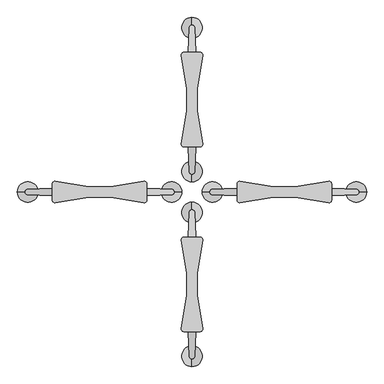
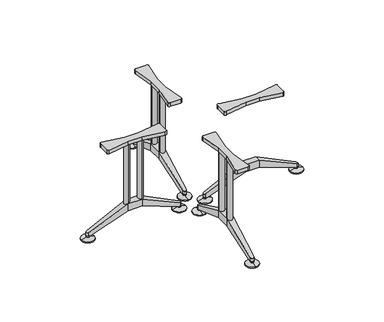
"""IFC4 building model written with IfcOpenShell, lengths in millimetres: furniture geometry, Furniture_Wilkhahn_622-45_Logon Circular Table : Logon 622/45_1800D x 730H."""

from ifc_helpers import new_model, si_unit, point, frame, frame_2d, origin, place, context, project, spatial, polyline, circle_curve, ellipse_curve, trimmed, segment, composite_curve, outline, extrude, source, transform, mapped, element, save
from ifc_brep_helpers import plane_surface, cylinder_surface, revolved_surface, advanced_brep


def furniture_2f5aa179(model_context):
    return source(origin(), model_context, "Body", "SolidModel", [
        advanced_brep(
        [(0.0, 826.4755164, 0.0), (0.0, 876.4755164, 0.0), (0.0, 776.4755164, 0.0), (0.0, 876.4755164, 6.0), (0.0, 776.4755164, 6.0), (0.0, 838.9511544, 17.0), (0.0, 813.9998784, 17.0), (0.0, 838.9511544, 27.0), (0.0, 813.9998784, 27.0), (0.0, 826.4755164, 27.0)],
        [
            (0, 1),
            (1, 2, circle_curve(frame((0.0, 826.4755164, 0.0), z_axis=(0.0, 0.0, -1.0), x_axis=(0.0, 1.0, 0.0)), 50.0)),
            (2, 0),
            (2, 1, circle_curve(frame((0.0, 826.4755164, 0.0), z_axis=(0.0, 0.0, -1.0), x_axis=(0.0, 1.0, 0.0)), 50.0)),
            (1, 3),
            (3, 4, circle_curve(frame((0.0, 826.4755164, 6.0), z_axis=(0.0, 0.0, -1.0), x_axis=(0.0, 1.0, 0.0)), 50.0)),
            (4, 2),
            (4, 3, circle_curve(frame((0.0, 826.4755164, 6.0), z_axis=(0.0, 0.0, -1.0), x_axis=(0.0, 1.0, 0.0)), 50.0)),
            (3, 5),
            (5, 6, circle_curve(frame((0.0, 826.4755164, 17.0), z_axis=(0.0, 0.0, -1.0), x_axis=(0.0, 1.0, 0.0)), 12.475638)),
            (6, 4),
            (6, 5, circle_curve(frame((0.0, 826.4755164, 17.0), z_axis=(0.0, 0.0, -1.0), x_axis=(0.0, 1.0, 0.0)), 12.475638)),
            (5, 7),
            (7, 8, circle_curve(frame((0.0, 826.4755164, 27.0), z_axis=(0.0, 0.0, -1.0), x_axis=(0.0, 1.0, 0.0)), 12.475638)),
            (8, 6),
            (8, 7, circle_curve(frame((0.0, 826.4755164, 27.0), z_axis=(0.0, 0.0, -1.0), x_axis=(0.0, 1.0, 0.0)), 12.475638)),
            (7, 9),
            (9, 8),
        ],
        [
            plane_surface(frame((0.0, 826.4755164, 0.0), z_axis=(0.0, 0.0, -1.0), x_axis=(0.0, 1.0, 0.0))),
            cylinder_surface(frame((0.0, 826.4755164, 27.0), z_axis=(0.0, 0.0, -1.0), x_axis=(0.0, 1.0, 0.0)), 50.0),
            revolved_surface(polyline([(0.0, 838.9511544, 17.0), (0.0, 876.4755164, 6.0)]), (0.0, 826.4755164, 27.0), (0.0, 0.0, -1.0)),
            cylinder_surface(frame((0.0, 826.4755164, 27.0), z_axis=(0.0, 0.0, -1.0), x_axis=(0.0, 1.0, 0.0)), 12.475638),
            plane_surface(frame((0.0, 826.4755164, 27.0), z_axis=(0.0, 0.0, 1.0), x_axis=(0.0, 1.0, 0.0))),
        ],
        [
            (0, [[1, 2, 3]]),
            (0, [[-3, 4, -1]]),
            (1, [[-2, 5, 6, 7]]),
            (1, [[-4, -7, 8, -5]]),
            (2, [[-6, 9, 10, 11]]),
            (2, [[-8, -11, 12, -9]]),
            (3, [[-10, 13, 14, 15]]),
            (3, [[-12, -15, 16, -13]]),
            (4, [[-14, 17, 18]]),
            (4, [[-16, -18, -17]]),
        ],
    ),
        advanced_brep(
        [(0.0, 175.4267924, 0.0), (0.0, 75.4267924, 0.0), (0.0, 125.4267924, 0.0), (0.0, 175.4267924, 6.0), (0.0, 75.4267924, 6.0), (0.0, 137.9024304, 17.0), (0.0, 112.9511544, 17.0), (0.0, 137.9024304, 27.0), (0.0, 112.9511544, 27.0), (0.0, 125.4267924, 27.0)],
        [
            (0, 1, circle_curve(frame((0.0, 125.4267924, 0.0), z_axis=(0.0, 0.0, -1.0), x_axis=(0.0, -1.0, 0.0)), 50.0)),
            (1, 2),
            (2, 0),
            (1, 0, circle_curve(frame((0.0, 125.4267924, 0.0), z_axis=(0.0, 0.0, -1.0), x_axis=(0.0, -1.0, 0.0)), 50.0)),
            (3, 4, circle_curve(frame((0.0, 125.4267924, 6.0), z_axis=(0.0, 0.0, -1.0), x_axis=(0.0, -1.0, 0.0)), 50.0)),
            (4, 1),
            (0, 3),
            (4, 3, circle_curve(frame((0.0, 125.4267924, 6.0), z_axis=(0.0, 0.0, -1.0), x_axis=(0.0, -1.0, 0.0)), 50.0)),
            (5, 6, circle_curve(frame((0.0, 125.4267924, 17.0), z_axis=(0.0, 0.0, -1.0), x_axis=(0.0, -1.0, 0.0)), 12.475638)),
            (6, 4),
            (3, 5),
            (6, 5, circle_curve(frame((0.0, 125.4267924, 17.0), z_axis=(0.0, 0.0, -1.0), x_axis=(0.0, -1.0, 0.0)), 12.475638)),
            (7, 8, circle_curve(frame((0.0, 125.4267924, 27.0), z_axis=(0.0, 0.0, -1.0), x_axis=(0.0, -1.0, 0.0)), 12.475638)),
            (8, 6),
            (5, 7),
            (8, 7, circle_curve(frame((0.0, 125.4267924, 27.0), z_axis=(0.0, 0.0, -1.0), x_axis=(0.0, -1.0, 0.0)), 12.475638)),
            (9, 8),
            (7, 9),
        ],
        [
            plane_surface(frame((0.0, 125.4267924, 0.0), z_axis=(0.0, 0.0, -1.0), x_axis=(0.0, -1.0, 0.0))),
            cylinder_surface(frame((0.0, 125.4267924, 27.0), z_axis=(0.0, 0.0, 1.0), x_axis=(0.0, -1.0, 0.0)), 50.0),
            revolved_surface(polyline([(0.0, 75.4267924, 6.0), (0.0, 112.9511544, 17.0)]), (0.0, 125.4267924, 27.0), (0.0, 0.0, 1.0)),
            cylinder_surface(frame((0.0, 125.4267924, 27.0), z_axis=(0.0, 0.0, 1.0), x_axis=(0.0, -1.0, 0.0)), 12.475638),
            plane_surface(frame((0.0, 125.4267924, 27.0), z_axis=(0.0, 0.0, 1.0), x_axis=(0.0, -1.0, 0.0))),
        ],
        [
            (0, [[1, 2, 3]]),
            (0, [[4, -3, -2]]),
            (1, [[5, 6, -1, 7]]),
            (1, [[8, -7, -4, -6]]),
            (2, [[9, 10, -5, 11]]),
            (2, [[12, -11, -8, -10]]),
            (3, [[13, 14, -9, 15]]),
            (3, [[16, -15, -12, -14]]),
            (4, [[17, -13, 18]]),
            (4, [[-18, -16, -17]]),
        ],
    ),
        extrude(outline(composite_curve([segment(polyline([(-25.0, 528.9511544), (-51.7160071, 692.0109222)]), True, "CONTINUOUS"), segment(trimmed(circle_curve(frame_2d((-39.8739001, 693.9511544)), 12.0), [point((-51.7160071, 692.0109222))], [point((-39.8739001, 705.9511544))], False, "CARTESIAN"), True, "CONTINUOUS"), segment(polyline([(-39.8739001, 705.9511544), (39.8739001, 705.9511544)]), True, "CONTINUOUS"), segment(trimmed(circle_curve(frame_2d((39.8739001, 693.9511544)), 12.0), [point((39.8739001, 705.9511544))], [point((51.7160071, 692.0109222))], False, "CARTESIAN"), True, "CONTINUOUS"), segment(polyline([(51.7160071, 692.0109222), (25.0, 528.9511544), (25.0, 422.9511544), (51.7160071, 259.8913867)]), True, "CONTINUOUS"), segment(trimmed(circle_curve(frame_2d((39.8739001, 257.9511544)), 12.0), [point((51.7160071, 259.8913867))], [point((39.8739001, 245.9511544))], False, "CARTESIAN"), True, "CONTINUOUS"), segment(polyline([(39.8739001, 245.9511544), (-39.8739001, 245.9511544)]), True, "CONTINUOUS"), segment(trimmed(circle_curve(frame_2d((-39.8739001, 257.9511544)), 12.0), [point((-39.8739001, 245.9511544))], [point((-51.7160071, 259.8913867))], False, "CARTESIAN"), True, "CONTINUOUS"), segment(polyline([(-51.7160071, 259.8913867), (-25.0, 422.9511544), (-25.0, 528.9511544)]), True, "CONTINUOUS")], self_intersect=False)), frame((0.0, 0.0, 675.0), z_axis=(0.0, 0.0, 1.0), x_axis=(1.0, 0.0, 0.0)), (0.0, 0.0, 1.0), 29.0),
        advanced_brep(
        [(25.0, 422.9511544, 140.0), (25.0, 528.9511544, 140.0), (25.0, 528.9511544, 195.0), (25.0, 422.9511544, 195.0), (-25.0, 422.9511544, 195.0), (-25.0, 528.9511544, 195.0), (-25.0, 528.9511544, 140.0), (-25.0, 422.9511544, 140.0), (-13.4930419, 137.9024304, 27.0), (13.4930419, 137.9024304, 27.0), (12.9894205, 125.4267924, 27.0), (0.0, 112.9511544, 27.0), (-12.9894205, 125.4267924, 27.0), (-12.9894205, 125.4267924, 56.4159205), (0.0, 112.9511544, 50.6048844), (12.9894205, 125.4267924, 56.4159205), (-12.9894205, 826.4755164, 56.4159205), (-12.9894205, 826.4755164, 27.0), (-13.4930419, 813.9998784, 27.0), (12.9894205, 826.4755164, 27.0), (12.9894205, 826.4755164, 56.4159205), (13.4930419, 813.9998784, 27.0), (0.0, 838.9511544, 27.0), (0.0, 838.9511544, 50.6048844)],
        [
            (0, 1),
            (1, 2),
            (2, 3),
            (3, 0),
            (4, 5),
            (5, 6),
            (6, 7),
            (7, 4),
            (8, 9),
            (9, 10),
            (10, 11, circle_curve(frame((0.0, 125.9511544, 27.0), z_axis=(0.0, 0.0, -1.0), x_axis=(-1.0, 0.0, 0.0)), 13.0)),
            (11, 12, circle_curve(frame((0.0, 125.9511544, 27.0), z_axis=(0.0, 0.0, -1.0), x_axis=(-1.0, 0.0, 0.0)), 13.0)),
            (12, 8),
            (3, 4),
            (4, 13),
            (13, 14, ellipse_curve(frame((0.0, 125.9511544, 56.6601634), z_axis=(0.0, -0.4222333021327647, 0.9064871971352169), x_axis=(0.0, -0.906487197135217, -0.4222333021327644)), 14.341074, 13.0)),
            (14, 15, ellipse_curve(frame((0.0, 125.9511544, 56.6601634), z_axis=(0.0, -0.4222333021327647, 0.9064871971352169), x_axis=(0.0, -0.906487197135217, -0.4222333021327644)), 14.341074, 13.0)),
            (15, 3),
            (7, 0),
            (0, 9),
            (8, 7),
            (16, 17),
            (17, 18),
            (18, 6),
            (5, 16),
            (19, 20),
            (20, 2),
            (1, 21),
            (21, 19),
            (2, 5),
            (6, 1),
            (19, 22, circle_curve(frame((0.0, 825.9511544, 27.0), z_axis=(0.0, 0.0, 1.0), x_axis=(-1.0, 0.0, 0.0)), 13.0)),
            (22, 17, circle_curve(frame((0.0, 825.9511544, 27.0), z_axis=(0.0, 0.0, 1.0), x_axis=(-1.0, 0.0, 0.0)), 13.0)),
            (16, 23, ellipse_curve(frame((0.0, 825.9511544, 56.6601634), z_axis=(0.0, -0.4222333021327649, -0.9064871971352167), x_axis=(0.0, 0.9064871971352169, -0.4222333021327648)), 14.341074, 13.0)),
            (23, 20, ellipse_curve(frame((0.0, 825.9511544, 56.6601634), z_axis=(0.0, -0.4222333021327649, -0.9064871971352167), x_axis=(0.0, 0.9064871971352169, -0.4222333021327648)), 14.341074, 13.0)),
            (15, 10),
            (13, 12),
            (21, 18),
        ],
        [
            plane_surface(frame((25.0, 129.6976943, 27.0), z_axis=(1.0, 0.0, 0.0), x_axis=(0.0, 1.0, 0.0))),
            plane_surface(frame((-25.0, 129.6976943, 27.0), z_axis=(-1.0, 0.0, 0.0), x_axis=(0.0, -1.0, 0.0))),
            plane_surface(frame((-25.0, 137.9024304, 27.0), z_axis=(0.0, 0.0, -1.0), x_axis=(1.0, 0.0, 0.0))),
            plane_surface(frame((-25.0, 112.9511544, 50.6048844), z_axis=(0.0, -0.4222333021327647, 0.9064871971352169), x_axis=(1.0, 0.0, 0.0))),
            plane_surface(frame((-25.0, 422.9511544, 140.0), z_axis=(0.0, 0.3685226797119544, -0.929618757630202), x_axis=(1.0, 0.0, 0.0))),
            plane_surface(frame((-25.0, 528.9511544, 195.0), z_axis=(-0.9991861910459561, 0.04033553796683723, 0.0), x_axis=(0.0, 0.0, -1.0))),
            plane_surface(frame((12.9894205, 826.4755164, 195.0), z_axis=(0.9991861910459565, 0.040335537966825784, 0.0), x_axis=(0.0, 0.0, -1.0))),
            plane_surface(frame((-25.0, 422.9511544, 195.0), z_axis=(0.0, 0.0, 1.0), x_axis=(1.0, 0.0, 0.0))),
            plane_surface(frame((-25.0, 528.9511544, 140.0), z_axis=(0.0, 0.0, -1.0), x_axis=(1.0, 0.0, 0.0))),
            cylinder_surface(frame((0.0, 825.9511544, 0.0), z_axis=(0.0, 0.0, -1.0), x_axis=(-1.0, 0.0, 0.0)), 13.0),
            plane_surface(frame((25.0, 422.9511544, 195.0), z_axis=(0.9991861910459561, -0.04033553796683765, 0.0), x_axis=(0.0, 0.0, -1.0))),
            cylinder_surface(frame((0.0, 125.9511544, -14.190167), z_axis=(0.0, 0.0, -1.0), x_axis=(-1.0, 0.0, 0.0)), 13.0),
            plane_surface(frame((-12.9894205, 125.4267924, 195.0), z_axis=(-0.9991861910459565, -0.04033553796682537, 0.0), x_axis=(0.0, 0.0, -1.0))),
            plane_surface(frame((-25.0, 528.9511544, 195.0), z_axis=(0.0, 0.4222333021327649, 0.9064871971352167), x_axis=(1.0, 0.0, 0.0))),
            plane_surface(frame((-25.0, 838.9511544, 27.0), z_axis=(0.0, 0.0, -1.0), x_axis=(1.0, 0.0, 0.0))),
            plane_surface(frame((-25.0, 813.9998784, 27.0), z_axis=(0.0, -0.3685226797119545, -0.929618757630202), x_axis=(1.0, 0.0, 0.0))),
        ],
        [
            (0, [[1, 2, 3, 4]]),
            (1, [[5, 6, 7, 8]]),
            (2, [[9, 10, 11, 12, 13]]),
            (3, [[14, 15, 16, 17, 18]]),
            (4, [[19, 20, -9, 21]]),
            (5, [[22, 23, 24, -6, 25]]),
            (6, [[26, 27, -2, 28, 29]]),
            (7, [[-3, 30, -5, -14]]),
            (8, [[-1, -19, -7, 31]]),
            (9, [[-26, 32, 33, -22, 34, 35]]),
            (10, [[36, -10, -20, -4, -18]]),
            (11, [[-36, -17, -16, 37, -12, -11]]),
            (12, [[-37, -15, -8, -21, -13]]),
            (13, [[-30, -27, -35, -34, -25]]),
            (14, [[38, -23, -33, -32, -29]]),
            (15, [[-31, -24, -38, -28]]),
        ],
    ),
        extrude(outline(composite_curve([segment(trimmed(circle_curve(frame_2d((0.0, 528.9511544)), 20.0), [point((20.0, 528.9511544))], [point((-20.0, 528.9511544))], False, "CARTESIAN"), True, "CONTINUOUS"), segment(trimmed(circle_curve(frame_2d((0.0, 528.9511544)), 20.0), [point((-20.0, 528.9511544))], [point((20.0, 528.9511544))], False, "CARTESIAN"), True, "CONTINUOUS")], self_intersect=False)), frame((0.0, 0.0, 140.0), z_axis=(0.0, 0.0, 1.0), x_axis=(1.0, 0.0, 0.0)), (0.0, 0.0, 1.0), 535.0),
        extrude(outline(composite_curve([segment(trimmed(circle_curve(frame_2d((0.0, 422.9511544)), 20.0), [point((20.0, 422.9511544))], [point((-20.0, 422.9511544))], False, "CARTESIAN"), True, "CONTINUOUS"), segment(trimmed(circle_curve(frame_2d((0.0, 422.9511544)), 20.0), [point((-20.0, 422.9511544))], [point((20.0, 422.9511544))], False, "CARTESIAN"), True, "CONTINUOUS")], self_intersect=False)), frame((0.0, 0.0, 140.0), z_axis=(0.0, 0.0, 1.0), x_axis=(1.0, 0.0, 0.0)), (0.0, 0.0, 1.0), 535.0),
        advanced_brep(
        [(0.0, -774.5732076, 0.0), (0.0, -724.5732076, 0.0), (0.0, -824.5732076, 0.0), (0.0, -724.5732076, 6.0), (0.0, -824.5732076, 6.0), (0.0, -762.0975696, 17.0), (0.0, -787.0488456, 17.0), (0.0, -762.0975696, 27.0), (0.0, -787.0488456, 27.0), (0.0, -774.5732076, 27.0)],
        [
            (0, 1),
            (1, 2, circle_curve(frame((0.0, -774.5732076, 0.0), z_axis=(0.0, 0.0, -1.0), x_axis=(0.0, -1.0, 0.0)), 50.0)),
            (2, 0),
            (2, 1, circle_curve(frame((0.0, -774.5732076, 0.0), z_axis=(0.0, 0.0, -1.0), x_axis=(0.0, -1.0, 0.0)), 50.0)),
            (1, 3),
            (3, 4, circle_curve(frame((0.0, -774.5732076, 6.0), z_axis=(0.0, 0.0, -1.0), x_axis=(0.0, -1.0, 0.0)), 50.0)),
            (4, 2),
            (4, 3, circle_curve(frame((0.0, -774.5732076, 6.0), z_axis=(0.0, 0.0, -1.0), x_axis=(0.0, -1.0, 0.0)), 50.0)),
            (3, 5),
            (5, 6, circle_curve(frame((0.0, -774.5732076, 17.0), z_axis=(0.0, 0.0, -1.0), x_axis=(0.0, -1.0, 0.0)), 12.475638)),
            (6, 4),
            (6, 5, circle_curve(frame((0.0, -774.5732076, 17.0), z_axis=(0.0, 0.0, -1.0), x_axis=(0.0, -1.0, 0.0)), 12.475638)),
            (5, 7),
            (7, 8, circle_curve(frame((0.0, -774.5732076, 27.0), z_axis=(0.0, 0.0, -1.0), x_axis=(0.0, -1.0, 0.0)), 12.475638)),
            (8, 6),
            (8, 7, circle_curve(frame((0.0, -774.5732076, 27.0), z_axis=(0.0, 0.0, -1.0), x_axis=(0.0, -1.0, 0.0)), 12.475638)),
            (7, 9),
            (9, 8),
        ],
        [
            plane_surface(frame((0.0, -774.5732076, 0.0), z_axis=(0.0, 0.0, -1.0), x_axis=(0.0, -1.0, 0.0))),
            cylinder_surface(frame((0.0, -774.5732076, 27.0), z_axis=(0.0, 0.0, -1.0), x_axis=(0.0, -1.0, 0.0)), 50.0),
            revolved_surface(polyline([(0.0, -787.0488456, 17.0), (0.0, -824.5732076, 6.0)]), (0.0, -774.5732076, 27.0), (0.0, 0.0, -1.0)),
            cylinder_surface(frame((0.0, -774.5732076, 27.0), z_axis=(0.0, 0.0, -1.0), x_axis=(0.0, -1.0, 0.0)), 12.475638),
            plane_surface(frame((0.0, -774.5732076, 27.0), z_axis=(0.0, 0.0, 1.0), x_axis=(0.0, -1.0, 0.0))),
        ],
        [
            (0, [[1, 2, 3]]),
            (0, [[-3, 4, -1]]),
            (1, [[5, 6, 7, -2]]),
            (1, [[-7, 8, -5, -4]]),
            (2, [[9, 10, 11, -6]]),
            (2, [[-11, 12, -9, -8]]),
            (3, [[13, 14, 15, -10]]),
            (3, [[-15, 16, -13, -12]]),
            (4, [[17, 18, -14]]),
            (4, [[-18, -17, -16]]),
        ],
    ),
        advanced_brep(
        [(0.0, -123.5244836, 0.0), (0.0, -73.5244836, 0.0), (0.0, -23.5244836, 0.0), (0.0, -123.5244836, 6.0), (0.0, -23.5244836, 6.0), (0.0, -86.0001216, 17.0), (0.0, -61.0488456, 17.0), (0.0, -86.0001216, 27.0), (0.0, -61.0488456, 27.0), (0.0, -73.5244836, 27.0)],
        [
            (0, 1),
            (1, 2),
            (2, 0, circle_curve(frame((0.0, -73.5244836, 0.0), z_axis=(0.0, 0.0, -1.0), x_axis=(0.0, 1.0, 0.0)), 50.0)),
            (0, 2, circle_curve(frame((0.0, -73.5244836, 0.0), z_axis=(0.0, 0.0, -1.0), x_axis=(0.0, 1.0, 0.0)), 50.0)),
            (3, 0),
            (2, 4),
            (4, 3, circle_curve(frame((0.0, -73.5244836, 6.0), z_axis=(0.0, 0.0, -1.0), x_axis=(0.0, 1.0, 0.0)), 50.0)),
            (3, 4, circle_curve(frame((0.0, -73.5244836, 6.0), z_axis=(0.0, 0.0, -1.0), x_axis=(0.0, 1.0, 0.0)), 50.0)),
            (5, 3),
            (4, 6),
            (6, 5, circle_curve(frame((0.0, -73.5244836, 17.0), z_axis=(0.0, 0.0, -1.0), x_axis=(0.0, 1.0, 0.0)), 12.475638)),
            (5, 6, circle_curve(frame((0.0, -73.5244836, 17.0), z_axis=(0.0, 0.0, -1.0), x_axis=(0.0, 1.0, 0.0)), 12.475638)),
            (7, 5),
            (6, 8),
            (8, 7, circle_curve(frame((0.0, -73.5244836, 27.0), z_axis=(0.0, 0.0, -1.0), x_axis=(0.0, 1.0, 0.0)), 12.475638)),
            (7, 8, circle_curve(frame((0.0, -73.5244836, 27.0), z_axis=(0.0, 0.0, -1.0), x_axis=(0.0, 1.0, 0.0)), 12.475638)),
            (9, 7),
            (8, 9),
        ],
        [
            plane_surface(frame((0.0, -73.5244836, 0.0), z_axis=(0.0, 0.0, -1.0), x_axis=(0.0, 1.0, 0.0))),
            cylinder_surface(frame((0.0, -73.5244836, 27.0), z_axis=(0.0, 0.0, 1.0), x_axis=(0.0, 1.0, 0.0)), 50.0),
            revolved_surface(polyline([(0.0, -23.5244836, 6.0), (0.0, -61.0488456, 17.0)]), (0.0, -73.5244836, 27.0), (0.0, 0.0, 1.0)),
            cylinder_surface(frame((0.0, -73.5244836, 27.0), z_axis=(0.0, 0.0, 1.0), x_axis=(0.0, 1.0, 0.0)), 12.475638),
            plane_surface(frame((0.0, -73.5244836, 27.0), z_axis=(0.0, 0.0, 1.0), x_axis=(0.0, 1.0, 0.0))),
        ],
        [
            (0, [[1, 2, 3]]),
            (0, [[-2, -1, 4]]),
            (1, [[5, -3, 6, 7]]),
            (1, [[-6, -4, -5, 8]]),
            (2, [[9, -7, 10, 11]]),
            (2, [[-10, -8, -9, 12]]),
            (3, [[13, -11, 14, 15]]),
            (3, [[-14, -12, -13, 16]]),
            (4, [[17, -15, 18]]),
            (4, [[-18, -16, -17]]),
        ],
    ),
        extrude(outline(composite_curve([segment(polyline([(-25.0, -477.0488456), (-25.0, -371.0488456), (-51.7160071, -207.9890778)]), True, "CONTINUOUS"), segment(trimmed(circle_curve(frame_2d((-39.8739001, -206.0488456)), 12.0), [point((-51.7160071, -207.9890778))], [point((-39.8739001, -194.0488456))], False, "CARTESIAN"), True, "CONTINUOUS"), segment(polyline([(-39.8739001, -194.0488456), (39.8739001, -194.0488456)]), True, "CONTINUOUS"), segment(trimmed(circle_curve(frame_2d((39.8739001, -206.0488456)), 12.0), [point((39.8739001, -194.0488456))], [point((51.7160071, -207.9890778))], False, "CARTESIAN"), True, "CONTINUOUS"), segment(polyline([(51.7160071, -207.9890778), (25.0, -371.0488456), (25.0, -477.0488456), (51.7160071, -640.1086133)]), True, "CONTINUOUS"), segment(trimmed(circle_curve(frame_2d((39.8739001, -642.0488456)), 12.0), [point((51.7160071, -640.1086133))], [point((39.8739001, -654.0488456))], False, "CARTESIAN"), True, "CONTINUOUS"), segment(polyline([(39.8739001, -654.0488456), (-39.8739001, -654.0488456)]), True, "CONTINUOUS"), segment(trimmed(circle_curve(frame_2d((-39.8739001, -642.0488456)), 12.0), [point((-39.8739001, -654.0488456))], [point((-51.7160071, -640.1086133))], False, "CARTESIAN"), True, "CONTINUOUS"), segment(polyline([(-51.7160071, -640.1086133), (-25.0, -477.0488456)]), True, "CONTINUOUS")], self_intersect=False)), frame((0.0, 0.0, 675.0), z_axis=(0.0, 0.0, 1.0), x_axis=(1.0, 0.0, 0.0)), (0.0, 0.0, 1.0), 29.0),
        advanced_brep(
        [(25.0, -371.0488456, 140.0), (25.0, -371.0488456, 195.0), (25.0, -477.0488456, 195.0), (25.0, -477.0488456, 140.0), (-25.0, -371.0488456, 195.0), (-25.0, -371.0488456, 140.0), (-25.0, -477.0488456, 140.0), (-25.0, -477.0488456, 195.0), (-13.4930419, -86.0001216, 27.0), (-12.9894205, -73.5244836, 27.0), (0.0, -61.0488456, 27.0), (12.9894205, -73.5244836, 27.0), (13.4930419, -86.0001216, 27.0), (12.9894205, -73.5244836, 56.4159205), (0.0, -61.0488456, 50.6048844), (-12.9894205, -73.5244836, 56.4159205), (-12.9894205, -774.5732076, 56.4159205), (-13.4930419, -762.0975696, 27.0), (-12.9894205, -774.5732076, 27.0), (12.9894205, -774.5732076, 27.0), (13.4930419, -762.0975696, 27.0), (12.9894205, -774.5732076, 56.4159205), (0.0, -787.0488456, 50.6048844), (0.0, -787.0488456, 27.0)],
        [
            (0, 1),
            (1, 2),
            (2, 3),
            (3, 0),
            (4, 5),
            (5, 6),
            (6, 7),
            (7, 4),
            (8, 9),
            (9, 10, circle_curve(frame((0.0, -74.0488456, 27.0), z_axis=(0.0, 0.0, -1.0), x_axis=(-1.0, 0.0, 0.0)), 13.0)),
            (10, 11, circle_curve(frame((0.0, -74.0488456, 27.0), z_axis=(0.0, 0.0, -1.0), x_axis=(-1.0, 0.0, 0.0)), 13.0)),
            (11, 12),
            (12, 8),
            (1, 13),
            (13, 14, ellipse_curve(frame((0.0, -74.0488456, 56.6601634), z_axis=(0.0, 0.4222333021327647, 0.9064871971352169), x_axis=(0.0, 0.906487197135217, -0.4222333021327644)), 14.341074, 13.0)),
            (14, 15, ellipse_curve(frame((0.0, -74.0488456, 56.6601634), z_axis=(0.0, 0.4222333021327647, 0.9064871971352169), x_axis=(0.0, 0.906487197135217, -0.4222333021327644)), 14.341074, 13.0)),
            (15, 4),
            (4, 1),
            (5, 8),
            (12, 0),
            (0, 5),
            (16, 7),
            (6, 17),
            (17, 18),
            (18, 16),
            (19, 20),
            (20, 3),
            (2, 21),
            (21, 19),
            (7, 2),
            (3, 6),
            (21, 22, ellipse_curve(frame((0.0, -774.0488456, 56.6601634), z_axis=(0.0, 0.4222333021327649, -0.9064871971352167), x_axis=(0.0, -0.9064871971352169, -0.4222333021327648)), 14.341074, 13.0)),
            (22, 16, ellipse_curve(frame((0.0, -774.0488456, 56.6601634), z_axis=(0.0, 0.4222333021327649, -0.9064871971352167), x_axis=(0.0, -0.9064871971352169, -0.4222333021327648)), 14.341074, 13.0)),
            (18, 23, circle_curve(frame((0.0, -774.0488456, 27.0), z_axis=(0.0, 0.0, 1.0), x_axis=(-1.0, 0.0, 0.0)), 13.0)),
            (23, 19, circle_curve(frame((0.0, -774.0488456, 27.0), z_axis=(0.0, 0.0, 1.0), x_axis=(-1.0, 0.0, 0.0)), 13.0)),
            (11, 13),
            (9, 15),
            (17, 20),
        ],
        [
            plane_surface(frame((25.0, -77.7953854, 27.0), z_axis=(1.0, 0.0, 0.0), x_axis=(0.0, -1.0, 0.0))),
            plane_surface(frame((-25.0, -77.7953854, 27.0), z_axis=(-1.0, 0.0, 0.0), x_axis=(0.0, 1.0, 0.0))),
            plane_surface(frame((-25.0, -86.0001216, 27.0), z_axis=(0.0, 0.0, -1.0), x_axis=(1.0, 0.0, 0.0))),
            plane_surface(frame((-25.0, -61.0488456, 50.6048844), z_axis=(0.0, 0.4222333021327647, 0.9064871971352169), x_axis=(1.0, 0.0, 0.0))),
            plane_surface(frame((-25.0, -371.0488456, 140.0), z_axis=(0.0, -0.3685226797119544, -0.929618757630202), x_axis=(1.0, 0.0, 0.0))),
            plane_surface(frame((-25.0, -477.0488456, 195.0), z_axis=(-0.9991861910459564, -0.040335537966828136, 0.0), x_axis=(0.0, 0.0, -1.0))),
            plane_surface(frame((12.9894205, -774.5732076, 195.0), z_axis=(0.9991861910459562, -0.04033553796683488, 0.0), x_axis=(0.0, 0.0, -1.0))),
            plane_surface(frame((-25.0, -371.0488456, 195.0), z_axis=(0.0, 0.0, 1.0), x_axis=(1.0, 0.0, 0.0))),
            plane_surface(frame((-25.0, -477.0488456, 140.0), z_axis=(0.0, 0.0, -1.0), x_axis=(1.0, 0.0, 0.0))),
            cylinder_surface(frame((0.0, -774.0488456, 0.0), z_axis=(0.0, 0.0, -1.0), x_axis=(-1.0, 0.0, 0.0)), 13.0),
            plane_surface(frame((25.0, -371.0488456, 195.0), z_axis=(0.9991861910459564, 0.04033553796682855, 0.0), x_axis=(0.0, 0.0, -1.0))),
            cylinder_surface(frame((0.0, -74.0488456, -14.190167), z_axis=(0.0, 0.0, -1.0), x_axis=(-1.0, 0.0, 0.0)), 13.0),
            plane_surface(frame((-12.9894205, -73.5244836, 195.0), z_axis=(-0.9991861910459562, 0.040335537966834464, 0.0), x_axis=(0.0, 0.0, -1.0))),
            plane_surface(frame((-25.0, -477.0488456, 195.0), z_axis=(0.0, -0.4222333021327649, 0.9064871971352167), x_axis=(1.0, 0.0, 0.0))),
            plane_surface(frame((-25.0, -787.0488456, 27.0), z_axis=(0.0, 0.0, -1.0), x_axis=(1.0, 0.0, 0.0))),
            plane_surface(frame((-25.0, -762.0975696, 27.0), z_axis=(0.0, 0.3685226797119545, -0.929618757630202), x_axis=(1.0, 0.0, 0.0))),
        ],
        [
            (0, [[1, 2, 3, 4]]),
            (1, [[5, 6, 7, 8]]),
            (2, [[9, 10, 11, 12, 13]]),
            (3, [[14, 15, 16, 17, 18]]),
            (4, [[19, -13, 20, 21]]),
            (5, [[22, -7, 23, 24, 25]]),
            (6, [[26, 27, -3, 28, 29]]),
            (7, [[-18, -8, 30, -2]]),
            (8, [[31, -6, -21, -4]]),
            (9, [[32, 33, -25, 34, 35, -29]]),
            (10, [[-14, -1, -20, -12, 36]]),
            (11, [[-11, -10, 37, -16, -15, -36]]),
            (12, [[-9, -19, -5, -17, -37]]),
            (13, [[-22, -33, -32, -28, -30]]),
            (14, [[-26, -35, -34, -24, 38]]),
            (15, [[-27, -38, -23, -31]]),
        ],
    ),
        extrude(outline(composite_curve([segment(trimmed(circle_curve(frame_2d((0.0, -477.0488456)), 20.0), [point((20.0, -477.0488456))], [point((-20.0, -477.0488456))], False, "CARTESIAN"), True, "CONTINUOUS"), segment(trimmed(circle_curve(frame_2d((0.0, -477.0488456)), 20.0), [point((-20.0, -477.0488456))], [point((20.0, -477.0488456))], False, "CARTESIAN"), True, "CONTINUOUS")], self_intersect=False)), frame((0.0, 0.0, 140.0), z_axis=(0.0, 0.0, 1.0), x_axis=(1.0, 0.0, 0.0)), (0.0, 0.0, 1.0), 535.0),
        extrude(outline(composite_curve([segment(trimmed(circle_curve(frame_2d((0.0, -371.0488456)), 20.0), [point((20.0, -371.0488456))], [point((-20.0, -371.0488456))], False, "CARTESIAN"), True, "CONTINUOUS"), segment(trimmed(circle_curve(frame_2d((0.0, -371.0488456)), 20.0), [point((-20.0, -371.0488456))], [point((20.0, -371.0488456))], False, "CARTESIAN"), True, "CONTINUOUS")], self_intersect=False)), frame((0.0, 0.0, 140.0), z_axis=(0.0, 0.0, 1.0), x_axis=(1.0, 0.0, 0.0)), (0.0, 0.0, 1.0), 535.0),
        advanced_brep(
        [(-800.524362, 25.9511544, 0.0), (-750.524362, 25.9511544, 0.0), (-850.524362, 25.9511544, 0.0), (-750.524362, 25.9511544, 6.0), (-850.524362, 25.9511544, 6.0), (-788.048724, 25.9511544, 17.0), (-813.0, 25.9511544, 17.0), (-788.048724, 25.9511544, 27.0), (-813.0, 25.9511544, 27.0), (-800.524362, 25.9511544, 27.0)],
        [
            (0, 1),
            (1, 2, circle_curve(frame((-800.524362, 25.9511544, 0.0), z_axis=(0.0, 0.0, -1.0), x_axis=(-1.0, 0.0, 0.0)), 50.0)),
            (2, 0),
            (2, 1, circle_curve(frame((-800.524362, 25.9511544, 0.0), z_axis=(0.0, 0.0, -1.0), x_axis=(-1.0, 0.0, 0.0)), 50.0)),
            (1, 3),
            (3, 4, circle_curve(frame((-800.524362, 25.9511544, 6.0), z_axis=(0.0, 0.0, -1.0), x_axis=(-1.0, 0.0, 0.0)), 50.0)),
            (4, 2),
            (4, 3, circle_curve(frame((-800.524362, 25.9511544, 6.0), z_axis=(0.0, 0.0, -1.0), x_axis=(-1.0, 0.0, 0.0)), 50.0)),
            (3, 5),
            (5, 6, circle_curve(frame((-800.524362, 25.9511544, 17.0), z_axis=(0.0, 0.0, -1.0), x_axis=(-1.0, 0.0, 0.0)), 12.475638)),
            (6, 4),
            (6, 5, circle_curve(frame((-800.524362, 25.9511544, 17.0), z_axis=(0.0, 0.0, -1.0), x_axis=(-1.0, 0.0, 0.0)), 12.475638)),
            (5, 7),
            (7, 8, circle_curve(frame((-800.524362, 25.9511544, 27.0), z_axis=(0.0, 0.0, -1.0), x_axis=(-1.0, 0.0, 0.0)), 12.475638)),
            (8, 6),
            (8, 7, circle_curve(frame((-800.524362, 25.9511544, 27.0), z_axis=(0.0, 0.0, -1.0), x_axis=(-1.0, 0.0, 0.0)), 12.475638)),
            (7, 9),
            (9, 8),
        ],
        [
            plane_surface(frame((-800.524362, 25.9511544, 0.0), z_axis=(0.0, 0.0, -1.0), x_axis=(-1.0, 0.0, 0.0))),
            cylinder_surface(frame((-800.524362, 25.9511544, 27.0), z_axis=(0.0, 0.0, -1.0), x_axis=(-1.0, 0.0, 0.0)), 50.0),
            revolved_surface(polyline([(-813.0, 25.9511544, 17.0), (-850.524362, 25.9511544, 6.0)]), (-800.524362, 25.9511544, 27.0), (0.0, 0.0, -1.0)),
            cylinder_surface(frame((-800.524362, 25.9511544, 27.0), z_axis=(0.0, 0.0, -1.0), x_axis=(-1.0, 0.0, 0.0)), 12.475638),
            plane_surface(frame((-800.524362, 25.9511544, 27.0), z_axis=(0.0, 0.0, 1.0), x_axis=(-1.0, 0.0, 0.0))),
        ],
        [
            (0, [[1, 2, 3]]),
            (0, [[-3, 4, -1]]),
            (1, [[5, 6, 7, -2]]),
            (1, [[-7, 8, -5, -4]]),
            (2, [[9, 10, 11, -6]]),
            (2, [[-11, 12, -9, -8]]),
            (3, [[13, 14, 15, -10]]),
            (3, [[-15, 16, -13, -12]]),
            (4, [[17, 18, -14]]),
            (4, [[-18, -17, -16]]),
        ],
    ),
        advanced_brep(
        [(-149.475638, 25.9511544, 0.0), (-99.475638, 25.9511544, 0.0), (-49.475638, 25.9511544, 0.0), (-149.475638, 25.9511544, 6.0), (-49.475638, 25.9511544, 6.0), (-111.951276, 25.9511544, 17.0), (-87.0, 25.9511544, 17.0), (-111.951276, 25.9511544, 27.0), (-87.0, 25.9511544, 27.0), (-99.475638, 25.9511544, 27.0)],
        [
            (0, 1),
            (1, 2),
            (2, 0, circle_curve(frame((-99.475638, 25.9511544, 0.0), z_axis=(0.0, 0.0, -1.0), x_axis=(1.0, 0.0, 0.0)), 50.0)),
            (0, 2, circle_curve(frame((-99.475638, 25.9511544, 0.0), z_axis=(0.0, 0.0, -1.0), x_axis=(1.0, 0.0, 0.0)), 50.0)),
            (3, 0),
            (2, 4),
            (4, 3, circle_curve(frame((-99.475638, 25.9511544, 6.0), z_axis=(0.0, 0.0, -1.0), x_axis=(1.0, 0.0, 0.0)), 50.0)),
            (3, 4, circle_curve(frame((-99.475638, 25.9511544, 6.0), z_axis=(0.0, 0.0, -1.0), x_axis=(1.0, 0.0, 0.0)), 50.0)),
            (5, 3),
            (4, 6),
            (6, 5, circle_curve(frame((-99.475638, 25.9511544, 17.0), z_axis=(0.0, 0.0, -1.0), x_axis=(1.0, 0.0, 0.0)), 12.475638)),
            (5, 6, circle_curve(frame((-99.475638, 25.9511544, 17.0), z_axis=(0.0, 0.0, -1.0), x_axis=(1.0, 0.0, 0.0)), 12.475638)),
            (7, 5),
            (6, 8),
            (8, 7, circle_curve(frame((-99.475638, 25.9511544, 27.0), z_axis=(0.0, 0.0, -1.0), x_axis=(1.0, 0.0, 0.0)), 12.475638)),
            (7, 8, circle_curve(frame((-99.475638, 25.9511544, 27.0), z_axis=(0.0, 0.0, -1.0), x_axis=(1.0, 0.0, 0.0)), 12.475638)),
            (9, 7),
            (8, 9),
        ],
        [
            plane_surface(frame((-99.475638, 25.9511544, 0.0), z_axis=(0.0, 0.0, -1.0), x_axis=(1.0, 0.0, 0.0))),
            cylinder_surface(frame((-99.475638, 25.9511544, 27.0), z_axis=(0.0, 0.0, 1.0), x_axis=(1.0, 0.0, 0.0)), 50.0),
            revolved_surface(polyline([(-49.475638, 25.9511544, 6.0), (-87.0, 25.9511544, 17.0)]), (-99.475638, 25.9511544, 27.0), (0.0, 0.0, 1.0)),
            cylinder_surface(frame((-99.475638, 25.9511544, 27.0), z_axis=(0.0, 0.0, 1.0), x_axis=(1.0, 0.0, 0.0)), 12.475638),
            plane_surface(frame((-99.475638, 25.9511544, 27.0), z_axis=(0.0, 0.0, 1.0), x_axis=(1.0, 0.0, 0.0))),
        ],
        [
            (0, [[1, 2, 3]]),
            (0, [[-2, -1, 4]]),
            (1, [[5, -3, 6, 7]]),
            (1, [[-6, -4, -5, 8]]),
            (2, [[9, -7, 10, 11]]),
            (2, [[-10, -8, -9, 12]]),
            (3, [[13, -11, 14, 15]]),
            (3, [[-14, -12, -13, 16]]),
            (4, [[17, -15, 18]]),
            (4, [[-18, -16, -17]]),
        ],
    ),
        extrude(outline(composite_curve([segment(polyline([(-503.0, 50.9511544), (-397.0, 50.9511544), (-233.9402322, 77.6671616)]), True, "CONTINUOUS"), segment(trimmed(circle_curve(frame_2d((-232.0, 65.8250546)), 12.0), [point((-233.9402322, 77.6671616))], [point((-220.0, 65.8250546))], False, "CARTESIAN"), True, "CONTINUOUS"), segment(polyline([(-220.0, 65.8250546), (-220.0, -13.9227457)]), True, "CONTINUOUS"), segment(trimmed(circle_curve(frame_2d((-232.0, -13.9227457)), 12.0), [point((-220.0, -13.9227457))], [point((-233.9402322, -25.7648527))], False, "CARTESIAN"), True, "CONTINUOUS"), segment(polyline([(-233.9402322, -25.7648527), (-397.0, 0.9511544), (-503.0, 0.9511544), (-666.0597678, -25.7648527)]), True, "CONTINUOUS"), segment(trimmed(circle_curve(frame_2d((-668.0, -13.9227457)), 12.0), [point((-666.0597678, -25.7648527))], [point((-680.0, -13.9227457))], False, "CARTESIAN"), True, "CONTINUOUS"), segment(polyline([(-680.0, -13.9227457), (-680.0, 65.8250546)]), True, "CONTINUOUS"), segment(trimmed(circle_curve(frame_2d((-668.0, 65.8250546)), 12.0), [point((-680.0, 65.8250546))], [point((-666.0597678, 77.6671616))], False, "CARTESIAN"), True, "CONTINUOUS"), segment(polyline([(-666.0597678, 77.6671616), (-503.0, 50.9511544)]), True, "CONTINUOUS")], self_intersect=False)), frame((0.0, 0.0, 675.0), z_axis=(0.0, 0.0, 1.0), x_axis=(1.0, 0.0, 0.0)), (0.0, 0.0, 1.0), 29.0),
        advanced_brep(
        [(-397.0, 0.9511544, 140.0), (-397.0, 0.9511544, 195.0), (-503.0, 0.9511544, 195.0), (-503.0, 0.9511544, 140.0), (-397.0, 50.9511544, 195.0), (-397.0, 50.9511544, 140.0), (-503.0, 50.9511544, 140.0), (-503.0, 50.9511544, 195.0), (-111.951276, 39.4441963, 27.0), (-99.475638, 38.9405749, 27.0), (-87.0, 25.9511544, 27.0), (-99.475638, 12.9617339, 27.0), (-111.951276, 12.4581125, 27.0), (-99.475638, 12.9617339, 56.4159205), (-87.0, 25.9511544, 50.6048844), (-99.475638, 38.9405749, 56.4159205), (-800.524362, 38.9405749, 56.4159205), (-788.048724, 39.4441963, 27.0), (-800.524362, 38.9405749, 27.0), (-800.524362, 12.9617339, 27.0), (-788.048724, 12.4581125, 27.0), (-800.524362, 12.9617339, 56.4159205), (-813.0, 25.9511544, 50.6048844), (-813.0, 25.9511544, 27.0)],
        [
            (0, 1),
            (1, 2),
            (2, 3),
            (3, 0),
            (4, 5),
            (5, 6),
            (6, 7),
            (7, 4),
            (8, 9),
            (9, 10, circle_curve(frame((-100.0, 25.9511544, 27.0), z_axis=(0.0, 0.0, -1.0), x_axis=(0.0, 1.0, 0.0)), 13.0)),
            (10, 11, circle_curve(frame((-100.0, 25.9511544, 27.0), z_axis=(0.0, 0.0, -1.0), x_axis=(0.0, 1.0, 0.0)), 13.0)),
            (11, 12),
            (12, 8),
            (1, 13),
            (13, 14, ellipse_curve(frame((-100.0, 25.9511544, 56.6601634), z_axis=(0.4222333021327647, 0.0, 0.9064871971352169), x_axis=(0.906487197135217, 0.0, -0.4222333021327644)), 14.341074, 13.0)),
            (14, 15, ellipse_curve(frame((-100.0, 25.9511544, 56.6601634), z_axis=(0.4222333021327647, 0.0, 0.9064871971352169), x_axis=(0.906487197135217, 0.0, -0.4222333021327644)), 14.341074, 13.0)),
            (15, 4),
            (4, 1),
            (5, 8),
            (12, 0),
            (0, 5),
            (16, 7),
            (6, 17),
            (17, 18),
            (18, 16),
            (19, 20),
            (20, 3),
            (2, 21),
            (21, 19),
            (7, 2),
            (3, 6),
            (21, 22, ellipse_curve(frame((-800.0, 25.9511544, 56.6601634), z_axis=(0.4222333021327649, 0.0, -0.9064871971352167), x_axis=(-0.9064871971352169, 0.0, -0.4222333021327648)), 14.341074, 13.0)),
            (22, 16, ellipse_curve(frame((-800.0, 25.9511544, 56.6601634), z_axis=(0.4222333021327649, 0.0, -0.9064871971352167), x_axis=(-0.9064871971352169, 0.0, -0.4222333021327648)), 14.341074, 13.0)),
            (18, 23, circle_curve(frame((-800.0, 25.9511544, 27.0), z_axis=(0.0, 0.0, 1.0), x_axis=(0.0, 1.0, 0.0)), 13.0)),
            (23, 19, circle_curve(frame((-800.0, 25.9511544, 27.0), z_axis=(0.0, 0.0, 1.0), x_axis=(0.0, 1.0, 0.0)), 13.0)),
            (11, 13),
            (9, 15),
            (17, 20),
        ],
        [
            plane_surface(frame((-103.7465398, 0.9511544, 27.0), z_axis=(0.0, -1.0, 0.0), x_axis=(-1.0, 0.0, 0.0))),
            plane_surface(frame((-103.7465398, 50.9511544, 27.0), z_axis=(0.0, 1.0, 0.0), x_axis=(1.0, 0.0, 0.0))),
            plane_surface(frame((-111.951276, 50.9511544, 27.0), z_axis=(0.0, 0.0, -1.0), x_axis=(0.0, -1.0, 0.0))),
            plane_surface(frame((-87.0, 50.9511544, 50.6048844), z_axis=(0.4222333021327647, 0.0, 0.9064871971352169), x_axis=(0.0, -1.0, 0.0))),
            plane_surface(frame((-397.0, 50.9511544, 140.0), z_axis=(-0.3685226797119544, 0.0, -0.929618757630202), x_axis=(0.0, -1.0, 0.0))),
            plane_surface(frame((-503.0, 50.9511544, 195.0), z_axis=(-0.040335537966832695, 0.9991861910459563, 0.0), x_axis=(0.0, 0.0, -1.0))),
            plane_surface(frame((-800.524362, 12.9617339, 195.0), z_axis=(-0.04033553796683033, -0.9991861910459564, 0.0), x_axis=(0.0, 0.0, -1.0))),
            plane_surface(frame((-397.0, 50.9511544, 195.0), z_axis=(0.0, 0.0, 1.0), x_axis=(0.0, -1.0, 0.0))),
            plane_surface(frame((-503.0, 50.9511544, 140.0), z_axis=(0.0, 0.0, -1.0), x_axis=(0.0, -1.0, 0.0))),
            cylinder_surface(frame((-800.0, 25.9511544, 0.0), z_axis=(0.0, 0.0, -1.0), x_axis=(0.0, 1.0, 0.0)), 13.0),
            plane_surface(frame((-397.0, 0.9511544, 195.0), z_axis=(0.04033553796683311, -0.9991861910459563, 0.0), x_axis=(0.0, 0.0, -1.0))),
            cylinder_surface(frame((-100.0, 25.9511544, -14.190167), z_axis=(0.0, 0.0, -1.0), x_axis=(0.0, 1.0, 0.0)), 13.0),
            plane_surface(frame((-99.475638, 38.9405749, 195.0), z_axis=(0.04033553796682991, 0.9991861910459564, 0.0), x_axis=(0.0, 0.0, -1.0))),
            plane_surface(frame((-503.0, 50.9511544, 195.0), z_axis=(-0.4222333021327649, 0.0, 0.9064871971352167), x_axis=(0.0, -1.0, 0.0))),
            plane_surface(frame((-813.0, 50.9511544, 27.0), z_axis=(0.0, 0.0, -1.0), x_axis=(0.0, -1.0, 0.0))),
            plane_surface(frame((-788.048724, 50.9511544, 27.0), z_axis=(0.3685226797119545, 0.0, -0.929618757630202), x_axis=(0.0, -1.0, 0.0))),
        ],
        [
            (0, [[1, 2, 3, 4]]),
            (1, [[5, 6, 7, 8]]),
            (2, [[9, 10, 11, 12, 13]]),
            (3, [[14, 15, 16, 17, 18]]),
            (4, [[19, -13, 20, 21]]),
            (5, [[22, -7, 23, 24, 25]]),
            (6, [[26, 27, -3, 28, 29]]),
            (7, [[-18, -8, 30, -2]]),
            (8, [[31, -6, -21, -4]]),
            (9, [[32, 33, -25, 34, 35, -29]]),
            (10, [[-14, -1, -20, -12, 36]]),
            (11, [[-11, -10, 37, -16, -15, -36]]),
            (12, [[-9, -19, -5, -17, -37]]),
            (13, [[-22, -33, -32, -28, -30]]),
            (14, [[-26, -35, -34, -24, 38]]),
            (15, [[-27, -38, -23, -31]]),
        ],
    ),
        extrude(outline(composite_curve([segment(trimmed(circle_curve(frame_2d((-503.0, 25.9511544)), 20.0), [point((-503.0, 5.9511544))], [point((-503.0, 45.9511544))], False, "CARTESIAN"), True, "CONTINUOUS"), segment(trimmed(circle_curve(frame_2d((-503.0, 25.9511544)), 20.0), [point((-503.0, 45.9511544))], [point((-503.0, 5.9511544))], False, "CARTESIAN"), True, "CONTINUOUS")], self_intersect=False)), frame((0.0, 0.0, 140.0), z_axis=(0.0, 0.0, 1.0), x_axis=(1.0, 0.0, 0.0)), (0.0, 0.0, 1.0), 535.0),
        extrude(outline(composite_curve([segment(trimmed(circle_curve(frame_2d((-397.0, 25.9511544)), 20.0), [point((-397.0, 5.9511544))], [point((-397.0, 45.9511544))], False, "CARTESIAN"), True, "CONTINUOUS"), segment(trimmed(circle_curve(frame_2d((-397.0, 25.9511544)), 20.0), [point((-397.0, 45.9511544))], [point((-397.0, 5.9511544))], False, "CARTESIAN"), True, "CONTINUOUS")], self_intersect=False)), frame((0.0, 0.0, 140.0), z_axis=(0.0, 0.0, 1.0), x_axis=(1.0, 0.0, 0.0)), (0.0, 0.0, 1.0), 535.0),
        advanced_brep(
        [(800.524362, 25.9511544, 0.0), (850.524362, 25.9511544, 0.0), (750.524362, 25.9511544, 0.0), (850.524362, 25.9511544, 6.0), (750.524362, 25.9511544, 6.0), (813.0, 25.9511544, 17.0), (788.048724, 25.9511544, 17.0), (813.0, 25.9511544, 27.0), (788.048724, 25.9511544, 27.0), (800.524362, 25.9511544, 27.0)],
        [
            (0, 1),
            (1, 2, circle_curve(frame((800.524362, 25.9511544, 0.0), z_axis=(0.0, 0.0, -1.0), x_axis=(1.0, 0.0, 0.0)), 50.0)),
            (2, 0),
            (2, 1, circle_curve(frame((800.524362, 25.9511544, 0.0), z_axis=(0.0, 0.0, -1.0), x_axis=(1.0, 0.0, 0.0)), 50.0)),
            (1, 3),
            (3, 4, circle_curve(frame((800.524362, 25.9511544, 6.0), z_axis=(0.0, 0.0, -1.0), x_axis=(1.0, 0.0, 0.0)), 50.0)),
            (4, 2),
            (4, 3, circle_curve(frame((800.524362, 25.9511544, 6.0), z_axis=(0.0, 0.0, -1.0), x_axis=(1.0, 0.0, 0.0)), 50.0)),
            (3, 5),
            (5, 6, circle_curve(frame((800.524362, 25.9511544, 17.0), z_axis=(0.0, 0.0, -1.0), x_axis=(1.0, 0.0, 0.0)), 12.475638)),
            (6, 4),
            (6, 5, circle_curve(frame((800.524362, 25.9511544, 17.0), z_axis=(0.0, 0.0, -1.0), x_axis=(1.0, 0.0, 0.0)), 12.475638)),
            (5, 7),
            (7, 8, circle_curve(frame((800.524362, 25.9511544, 27.0), z_axis=(0.0, 0.0, -1.0), x_axis=(1.0, 0.0, 0.0)), 12.475638)),
            (8, 6),
            (8, 7, circle_curve(frame((800.524362, 25.9511544, 27.0), z_axis=(0.0, 0.0, -1.0), x_axis=(1.0, 0.0, 0.0)), 12.475638)),
            (7, 9),
            (9, 8),
        ],
        [
            plane_surface(frame((800.524362, 25.9511544, 0.0), z_axis=(0.0, 0.0, -1.0), x_axis=(1.0, 0.0, 0.0))),
            cylinder_surface(frame((800.524362, 25.9511544, 27.0), z_axis=(0.0, 0.0, -1.0), x_axis=(1.0, 0.0, 0.0)), 50.0),
            revolved_surface(polyline([(813.0, 25.9511544, 17.0), (850.524362, 25.9511544, 6.0)]), (800.524362, 25.9511544, 27.0), (0.0, 0.0, -1.0)),
            cylinder_surface(frame((800.524362, 25.9511544, 27.0), z_axis=(0.0, 0.0, -1.0), x_axis=(1.0, 0.0, 0.0)), 12.475638),
            plane_surface(frame((800.524362, 25.9511544, 27.0), z_axis=(0.0, 0.0, 1.0), x_axis=(1.0, 0.0, 0.0))),
        ],
        [
            (0, [[1, 2, 3]]),
            (0, [[-3, 4, -1]]),
            (1, [[-2, 5, 6, 7]]),
            (1, [[-4, -7, 8, -5]]),
            (2, [[-6, 9, 10, 11]]),
            (2, [[-8, -11, 12, -9]]),
            (3, [[-10, 13, 14, 15]]),
            (3, [[-12, -15, 16, -13]]),
            (4, [[-14, 17, 18]]),
            (4, [[-16, -18, -17]]),
        ],
    ),
        advanced_brep(
        [(149.475638, 25.9511544, 0.0), (49.475638, 25.9511544, 0.0), (99.475638, 25.9511544, 0.0), (149.475638, 25.9511544, 6.0), (49.475638, 25.9511544, 6.0), (111.951276, 25.9511544, 17.0), (87.0, 25.9511544, 17.0), (111.951276, 25.9511544, 27.0), (87.0, 25.9511544, 27.0), (99.475638, 25.9511544, 27.0)],
        [
            (0, 1, circle_curve(frame((99.475638, 25.9511544, 0.0), z_axis=(0.0, 0.0, -1.0), x_axis=(-1.0, 0.0, 0.0)), 50.0)),
            (1, 2),
            (2, 0),
            (1, 0, circle_curve(frame((99.475638, 25.9511544, 0.0), z_axis=(0.0, 0.0, -1.0), x_axis=(-1.0, 0.0, 0.0)), 50.0)),
            (3, 4, circle_curve(frame((99.475638, 25.9511544, 6.0), z_axis=(0.0, 0.0, -1.0), x_axis=(-1.0, 0.0, 0.0)), 50.0)),
            (4, 1),
            (0, 3),
            (4, 3, circle_curve(frame((99.475638, 25.9511544, 6.0), z_axis=(0.0, 0.0, -1.0), x_axis=(-1.0, 0.0, 0.0)), 50.0)),
            (5, 6, circle_curve(frame((99.475638, 25.9511544, 17.0), z_axis=(0.0, 0.0, -1.0), x_axis=(-1.0, 0.0, 0.0)), 12.475638)),
            (6, 4),
            (3, 5),
            (6, 5, circle_curve(frame((99.475638, 25.9511544, 17.0), z_axis=(0.0, 0.0, -1.0), x_axis=(-1.0, 0.0, 0.0)), 12.475638)),
            (7, 8, circle_curve(frame((99.475638, 25.9511544, 27.0), z_axis=(0.0, 0.0, -1.0), x_axis=(-1.0, 0.0, 0.0)), 12.475638)),
            (8, 6),
            (5, 7),
            (8, 7, circle_curve(frame((99.475638, 25.9511544, 27.0), z_axis=(0.0, 0.0, -1.0), x_axis=(-1.0, 0.0, 0.0)), 12.475638)),
            (9, 8),
            (7, 9),
        ],
        [
            plane_surface(frame((99.475638, 25.9511544, 0.0), z_axis=(0.0, 0.0, -1.0), x_axis=(-1.0, 0.0, 0.0))),
            cylinder_surface(frame((99.475638, 25.9511544, 27.0), z_axis=(0.0, 0.0, 1.0), x_axis=(-1.0, 0.0, 0.0)), 50.0),
            revolved_surface(polyline([(49.475638, 25.9511544, 6.0), (87.0, 25.9511544, 17.0)]), (99.475638, 25.9511544, 27.0), (0.0, 0.0, 1.0)),
            cylinder_surface(frame((99.475638, 25.9511544, 27.0), z_axis=(0.0, 0.0, 1.0), x_axis=(-1.0, 0.0, 0.0)), 12.475638),
            plane_surface(frame((99.475638, 25.9511544, 27.0), z_axis=(0.0, 0.0, 1.0), x_axis=(-1.0, 0.0, 0.0))),
        ],
        [
            (0, [[1, 2, 3]]),
            (0, [[4, -3, -2]]),
            (1, [[5, 6, -1, 7]]),
            (1, [[8, -7, -4, -6]]),
            (2, [[9, 10, -5, 11]]),
            (2, [[12, -11, -8, -10]]),
            (3, [[13, 14, -9, 15]]),
            (3, [[16, -15, -12, -14]]),
            (4, [[17, -13, 18]]),
            (4, [[-18, -16, -17]]),
        ],
    ),
        extrude(outline(composite_curve([segment(polyline([(503.0, 50.9511544), (666.0597678, 77.6671616)]), True, "CONTINUOUS"), segment(trimmed(circle_curve(frame_2d((668.0, 65.8250546)), 12.0), [point((666.0597678, 77.6671616))], [point((680.0, 65.8250546))], False, "CARTESIAN"), True, "CONTINUOUS"), segment(polyline([(680.0, 65.8250546), (680.0, -13.9227457)]), True, "CONTINUOUS"), segment(trimmed(circle_curve(frame_2d((668.0, -13.9227457)), 12.0), [point((680.0, -13.9227457))], [point((666.0597678, -25.7648527))], False, "CARTESIAN"), True, "CONTINUOUS"), segment(polyline([(666.0597678, -25.7648527), (503.0, 0.9511544), (397.0, 0.9511544), (233.9402322, -25.7648527)]), True, "CONTINUOUS"), segment(trimmed(circle_curve(frame_2d((232.0, -13.9227457)), 12.0), [point((233.9402322, -25.7648527))], [point((220.0, -13.9227457))], False, "CARTESIAN"), True, "CONTINUOUS"), segment(polyline([(220.0, -13.9227457), (220.0, 65.8250546)]), True, "CONTINUOUS"), segment(trimmed(circle_curve(frame_2d((232.0, 65.8250546)), 12.0), [point((220.0, 65.8250546))], [point((233.9402322, 77.6671616))], False, "CARTESIAN"), True, "CONTINUOUS"), segment(polyline([(233.9402322, 77.6671616), (397.0, 50.9511544), (503.0, 50.9511544)]), True, "CONTINUOUS")], self_intersect=False)), frame((0.0, 0.0, 675.0), z_axis=(0.0, 0.0, 1.0), x_axis=(1.0, 0.0, 0.0)), (0.0, 0.0, 1.0), 29.0),
        advanced_brep(
        [(397.0, 0.9511544, 140.0), (503.0, 0.9511544, 140.0), (503.0, 0.9511544, 195.0), (397.0, 0.9511544, 195.0), (397.0, 50.9511544, 195.0), (503.0, 50.9511544, 195.0), (503.0, 50.9511544, 140.0), (397.0, 50.9511544, 140.0), (111.951276, 39.4441963, 27.0), (111.951276, 12.4581125, 27.0), (99.475638, 12.9617339, 27.0), (87.0, 25.9511544, 27.0), (99.475638, 38.9405749, 27.0), (99.475638, 38.9405749, 56.4159205), (87.0, 25.9511544, 50.6048844), (99.475638, 12.9617339, 56.4159205), (800.524362, 38.9405749, 56.4159205), (800.524362, 38.9405749, 27.0), (788.048724, 39.4441963, 27.0), (800.524362, 12.9617339, 27.0), (800.524362, 12.9617339, 56.4159205), (788.048724, 12.4581125, 27.0), (813.0, 25.9511544, 27.0), (813.0, 25.9511544, 50.6048844)],
        [
            (0, 1),
            (1, 2),
            (2, 3),
            (3, 0),
            (4, 5),
            (5, 6),
            (6, 7),
            (7, 4),
            (8, 9),
            (9, 10),
            (10, 11, circle_curve(frame((100.0, 25.9511544, 27.0), z_axis=(0.0, 0.0, -1.0), x_axis=(0.0, 1.0, 0.0)), 13.0)),
            (11, 12, circle_curve(frame((100.0, 25.9511544, 27.0), z_axis=(0.0, 0.0, -1.0), x_axis=(0.0, 1.0, 0.0)), 13.0)),
            (12, 8),
            (3, 4),
            (4, 13),
            (13, 14, ellipse_curve(frame((100.0, 25.9511544, 56.6601634), z_axis=(-0.4222333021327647, 0.0, 0.9064871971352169), x_axis=(-0.906487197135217, 0.0, -0.4222333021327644)), 14.341074, 13.0)),
            (14, 15, ellipse_curve(frame((100.0, 25.9511544, 56.6601634), z_axis=(-0.4222333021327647, 0.0, 0.9064871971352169), x_axis=(-0.906487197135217, 0.0, -0.4222333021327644)), 14.341074, 13.0)),
            (15, 3),
            (7, 0),
            (0, 9),
            (8, 7),
            (16, 17),
            (17, 18),
            (18, 6),
            (5, 16),
            (19, 20),
            (20, 2),
            (1, 21),
            (21, 19),
            (2, 5),
            (6, 1),
            (19, 22, circle_curve(frame((800.0, 25.9511544, 27.0), z_axis=(0.0, 0.0, 1.0), x_axis=(0.0, 1.0, 0.0)), 13.0)),
            (22, 17, circle_curve(frame((800.0, 25.9511544, 27.0), z_axis=(0.0, 0.0, 1.0), x_axis=(0.0, 1.0, 0.0)), 13.0)),
            (16, 23, ellipse_curve(frame((800.0, 25.9511544, 56.6601634), z_axis=(-0.4222333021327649, 0.0, -0.9064871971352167), x_axis=(0.9064871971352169, 0.0, -0.4222333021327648)), 14.341074, 13.0)),
            (23, 20, ellipse_curve(frame((800.0, 25.9511544, 56.6601634), z_axis=(-0.4222333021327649, 0.0, -0.9064871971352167), x_axis=(0.9064871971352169, 0.0, -0.4222333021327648)), 14.341074, 13.0)),
            (15, 10),
            (13, 12),
            (21, 18),
        ],
        [
            plane_surface(frame((103.7465398, 0.9511544, 27.0), z_axis=(0.0, -1.0, 0.0), x_axis=(1.0, 0.0, 0.0))),
            plane_surface(frame((103.7465398, 50.9511544, 27.0), z_axis=(0.0, 1.0, 0.0), x_axis=(-1.0, 0.0, 0.0))),
            plane_surface(frame((111.951276, 50.9511544, 27.0), z_axis=(0.0, 0.0, -1.0), x_axis=(0.0, -1.0, 0.0))),
            plane_surface(frame((87.0, 50.9511544, 50.6048844), z_axis=(-0.4222333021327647, 0.0, 0.9064871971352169), x_axis=(0.0, -1.0, 0.0))),
            plane_surface(frame((397.0, 50.9511544, 140.0), z_axis=(0.3685226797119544, 0.0, -0.929618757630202), x_axis=(0.0, -1.0, 0.0))),
            plane_surface(frame((503.0, 50.9511544, 195.0), z_axis=(0.040335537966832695, 0.9991861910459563, 0.0), x_axis=(0.0, 0.0, -1.0))),
            plane_surface(frame((800.524362, 12.9617339, 195.0), z_axis=(0.04033553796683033, -0.9991861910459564, 0.0), x_axis=(0.0, 0.0, -1.0))),
            plane_surface(frame((397.0, 50.9511544, 195.0), z_axis=(0.0, 0.0, 1.0), x_axis=(0.0, -1.0, 0.0))),
            plane_surface(frame((503.0, 50.9511544, 140.0), z_axis=(0.0, 0.0, -1.0), x_axis=(0.0, -1.0, 0.0))),
            cylinder_surface(frame((800.0, 25.9511544, 0.0), z_axis=(0.0, 0.0, -1.0), x_axis=(0.0, 1.0, 0.0)), 13.0),
            plane_surface(frame((397.0, 0.9511544, 195.0), z_axis=(-0.04033553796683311, -0.9991861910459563, 0.0), x_axis=(0.0, 0.0, -1.0))),
            cylinder_surface(frame((100.0, 25.9511544, -14.190167), z_axis=(0.0, 0.0, -1.0), x_axis=(0.0, 1.0, 0.0)), 13.0),
            plane_surface(frame((99.475638, 38.9405749, 195.0), z_axis=(-0.04033553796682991, 0.9991861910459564, 0.0), x_axis=(0.0, 0.0, -1.0))),
            plane_surface(frame((503.0, 50.9511544, 195.0), z_axis=(0.4222333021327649, 0.0, 0.9064871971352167), x_axis=(0.0, -1.0, 0.0))),
            plane_surface(frame((813.0, 50.9511544, 27.0), z_axis=(0.0, 0.0, -1.0), x_axis=(0.0, -1.0, 0.0))),
            plane_surface(frame((788.048724, 50.9511544, 27.0), z_axis=(-0.3685226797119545, 0.0, -0.929618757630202), x_axis=(0.0, -1.0, 0.0))),
        ],
        [
            (0, [[1, 2, 3, 4]]),
            (1, [[5, 6, 7, 8]]),
            (2, [[9, 10, 11, 12, 13]]),
            (3, [[14, 15, 16, 17, 18]]),
            (4, [[19, 20, -9, 21]]),
            (5, [[22, 23, 24, -6, 25]]),
            (6, [[26, 27, -2, 28, 29]]),
            (7, [[-3, 30, -5, -14]]),
            (8, [[-1, -19, -7, 31]]),
            (9, [[-26, 32, 33, -22, 34, 35]]),
            (10, [[36, -10, -20, -4, -18]]),
            (11, [[-36, -17, -16, 37, -12, -11]]),
            (12, [[-37, -15, -8, -21, -13]]),
            (13, [[-30, -27, -35, -34, -25]]),
            (14, [[38, -23, -33, -32, -29]]),
            (15, [[-31, -24, -38, -28]]),
        ],
    ),
    ])


if __name__ == "__main__":
    model = new_model("IFC4")
    model_context = context("Model", 3, world=origin())
    ifc_project = project(units=[si_unit("LENGTHUNIT", "METRE", prefix="MILLI")], contexts=[model_context])
    site = spatial("IfcSite", under=ifc_project)
    building = spatial("IfcBuilding", under=site)
    placement = place(None, origin())
    furniture_shape = furniture_2f5aa179(model_context)
    element("IfcFurniture", 1, ObjectType="Furniture_Wilkhahn_622-45_Logon Circular Table : Logon 622/45_1800D x 730H", at=placement, inside=building, context=model_context, shape_type="MappedRepresentation", body=[
        mapped(furniture_shape, transform((0.0, 0.0, 0.0), x_axis=(1.0, 0.0, 0.0), y_axis=(0.0, 1.0, 0.0), z_axis=(0.0, 0.0, 1.0))),
    ])
    save(model, "model.ifc")
